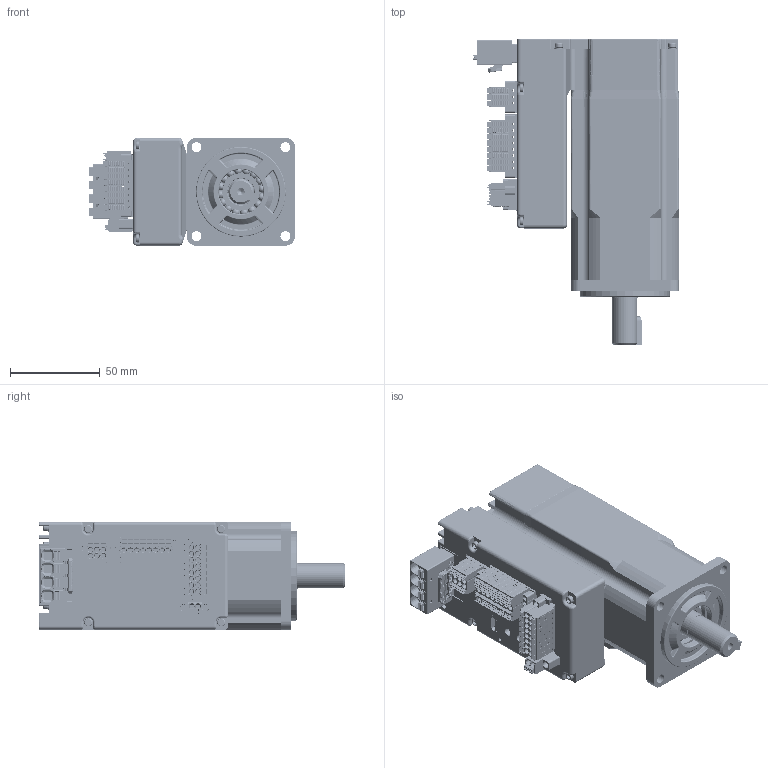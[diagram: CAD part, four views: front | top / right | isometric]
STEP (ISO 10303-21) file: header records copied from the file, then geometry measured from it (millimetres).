
FILE_DESCRIPTION((''),'2;1');
FILE_NAME('ISMD60-040-DNBK-AA','2025-12-01T14:52:21',('86136'),(''),'CREO PARAMETRIC BY PTC INC, 2016510','CREO PARAMETRIC BY PTC INC, 2016510','');
FILE_SCHEMA(('CONFIG_CONTROL_DESIGN'));
Products named in the file (1): ISMD60-040-DNBK-AA
Bounding box: 114.55 x 170.5 x 60.46 mm (x, y, z)
Surface area: 167916.2 mm2 (no closed solid volume)
Topology: 0 solids, 475 shells, 5834 faces, 22291 edges, 16523 vertices
Faces by surface type: plane 3598, cylinder 1166, torus 370, bspline 265, cone 237, sphere 164, extrusion 34
Entity records: 248967 total; most frequent: CARTESIAN_POINT 68004, DIRECTION 36691, ORIENTED_EDGE 32824, EDGE_CURVE 22161, VERTEX_POINT 16523, VECTOR 14693, LINE 14659, AXIS2_PLACEMENT_3D 10999
